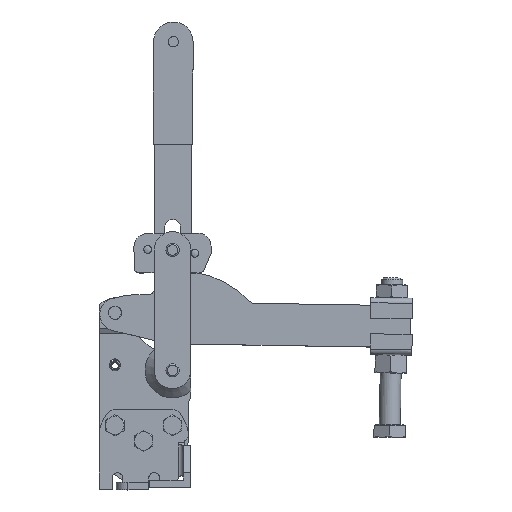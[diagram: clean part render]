
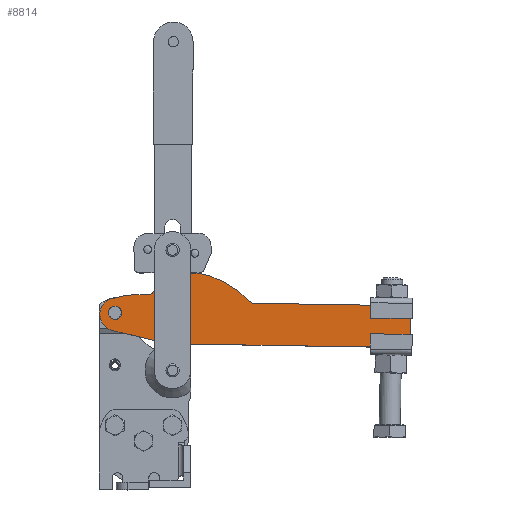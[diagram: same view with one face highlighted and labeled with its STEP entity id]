
A CAD part, top view. The second image highlights one B-rep face of the part: STEP entity #8814.
In plain terms, the highlighted planar face has unit normal (0, 0, 1).
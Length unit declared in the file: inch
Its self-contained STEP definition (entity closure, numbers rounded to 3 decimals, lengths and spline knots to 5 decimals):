
#8223=CARTESIAN_POINT('',(18.46002,11.28633,0.45362));
#8224=VERTEX_POINT('',#8223);
#8225=CARTESIAN_POINT('',(18.30304,11.28888,0.45362));
#8226=DIRECTION('',(0.0,0.0,-1.0));
#8227=DIRECTION('',(-1.,0.016,0.0));
#8228=AXIS2_PLACEMENT_3D('',#8225,#8226,#8227);
#8229=CIRCLE('',#8228,0.157);
#8230=EDGE_CURVE('',#8224,#8224,#8229,.T.);
#8251=CARTESIAN_POINT('',(19.83484,11.26398,0.45362));
#8252=VERTEX_POINT('',#8251);
#8253=CARTESIAN_POINT('',(19.67786,11.26653,0.45362));
#8254=DIRECTION('',(0.0,0.0,-1.0));
#8255=DIRECTION('',(-1.,0.016,0.0));
#8256=AXIS2_PLACEMENT_3D('',#8253,#8254,#8255);
#8257=CIRCLE('',#8256,0.157);
#8258=EDGE_CURVE('',#8252,#8252,#8257,.T.);
#8279=CARTESIAN_POINT('',(19.35599,12.17131,0.45362));
#8280=VERTEX_POINT('',#8279);
#8281=CARTESIAN_POINT('',(19.45327,12.25399,0.45362));
#8282=VERTEX_POINT('',#8281);
#8283=CARTESIAN_POINT('',(19.47423,12.13075,0.45362));
#8284=DIRECTION('',(0.0,0.0,-1.0));
#8285=DIRECTION('',(-0.648,0.762,0.0));
#8286=AXIS2_PLACEMENT_3D('',#8283,#8284,#8285);
#8287=CIRCLE('',#8286,0.125);
#8288=EDGE_CURVE('',#8280,#8282,#8287,.T.);
#8332=CARTESIAN_POINT('',(25.30669,11.45707,0.45362));
#8333=VERTEX_POINT('',#8332);
#8340=CARTESIAN_POINT('',(25.36767,11.39407,0.45362));
#8341=VERTEX_POINT('',#8340);
#8342=CARTESIAN_POINT('',(25.30568,11.39508,0.45362));
#8343=DIRECTION('',(0.0,0.0,-1.0));
#8344=DIRECTION('',(0.719,0.696,0.0));
#8345=AXIS2_PLACEMENT_3D('',#8342,#8343,#8344);
#8346=CIRCLE('',#8345,0.062);
#8347=EDGE_CURVE('',#8333,#8341,#8346,.T.);
#8374=CARTESIAN_POINT('',(25.35343,10.51819,0.45362));
#8375=VERTEX_POINT('',#8374);
#8382=CARTESIAN_POINT('',(25.29044,10.45721,0.45362));
#8383=VERTEX_POINT('',#8382);
#8384=CARTESIAN_POINT('',(25.29144,10.5192,0.45362));
#8385=DIRECTION('',(0.0,0.0,-1.0));
#8386=DIRECTION('',(0.696,-0.719,0.0));
#8387=AXIS2_PLACEMENT_3D('',#8384,#8385,#8386);
#8388=CIRCLE('',#8387,0.062);
#8389=EDGE_CURVE('',#8375,#8383,#8388,.T.);
#8413=CARTESIAN_POINT('',(25.36767,11.39407,0.45362));
#8414=DIRECTION('',(-0.016,-1.,0.0));
#8415=VECTOR('',#8414,0.876);
#8416=LINE('',#8413,#8415);
#8417=EDGE_CURVE('',#8341,#8375,#8416,.T.);
#8537=CARTESIAN_POINT('',(21.64225,11.51664,0.45362));
#8538=VERTEX_POINT('',#8537);
#8545=CARTESIAN_POINT('',(25.30669,11.45707,0.45362));
#8546=DIRECTION('',(-1.,0.016,0.0));
#8547=VECTOR('',#8546,3.66492);
#8548=LINE('',#8545,#8547);
#8549=EDGE_CURVE('',#8333,#8538,#8548,.T.);
#8560=CARTESIAN_POINT('',(21.51604,11.5682,0.45362));
#8561=VERTEX_POINT('',#8560);
#8562=CARTESIAN_POINT('',(19.84089,9.97471,0.45362));
#8563=DIRECTION('',(0.0,0.0,1.0));
#8564=DIRECTION('',(-0.725,-0.689,0.0));
#8565=AXIS2_PLACEMENT_3D('',#8562,#8563,#8564);
#8566=CIRCLE('',#8565,2.312);
#8567=EDGE_CURVE('',#8561,#8282,#8566,.T.);
#8585=CARTESIAN_POINT('',(18.20969,11.62141,0.45362));
#8586=VERTEX_POINT('',#8585);
#8593=CARTESIAN_POINT('',(19.10234,11.72119,0.45362));
#8594=VERTEX_POINT('',#8593);
#8595=CARTESIAN_POINT('',(18.91509,9.35359,0.45362));
#8596=DIRECTION('',(0.0,0.0,1.0));
#8597=DIRECTION('',(-0.079,-0.997,0.0));
#8598=AXIS2_PLACEMENT_3D('',#8595,#8596,#8597);
#8599=CIRCLE('',#8598,2.375);
#8600=EDGE_CURVE('',#8594,#8586,#8599,.T.);
#8618=CARTESIAN_POINT('',(19.23044,11.80525,0.45362));
#8619=VERTEX_POINT('',#8618);
#8620=CARTESIAN_POINT('',(19.1122,11.8458,0.45362));
#8621=DIRECTION('',(0.0,0.0,-1.0));
#8622=DIRECTION('',(-0.079,-0.997,0.0));
#8623=AXIS2_PLACEMENT_3D('',#8620,#8621,#8622);
#8624=CIRCLE('',#8623,0.125);
#8625=EDGE_CURVE('',#8619,#8594,#8624,.T.);
#8644=CARTESIAN_POINT('',(19.35599,12.17131,0.45362));
#8645=DIRECTION('',(-0.324,-0.946,0.0));
#8646=VECTOR('',#8645,0.387);
#8647=LINE('',#8644,#8646);
#8648=EDGE_CURVE('',#8280,#8619,#8647,.T.);
#8660=CARTESIAN_POINT('',(21.64012,11.51043,0.45362));
#8661=VERTEX_POINT('',#8660);
#8662=CARTESIAN_POINT('',(21.65153,11.69708,0.45362));
#8663=DIRECTION('',(0.0,0.0,-1.0));
#8664=DIRECTION('',(-0.725,-0.689,0.0));
#8665=AXIS2_PLACEMENT_3D('',#8662,#8663,#8664);
#8666=CIRCLE('',#8665,0.187);
#8667=EDGE_CURVE('',#8661,#8561,#8666,.T.);
#8685=CARTESIAN_POINT('',(21.64225,11.51664,0.45362));
#8686=DIRECTION('',(-0.324,-0.946,0.0));
#8687=VECTOR('',#8686,0.00656);
#8688=LINE('',#8685,#8687);
#8689=EDGE_CURVE('',#8538,#8661,#8688,.T.);
#8701=CARTESIAN_POINT('',(19.56476,10.55028,0.45362));
#8702=VERTEX_POINT('',#8701);
#8709=CARTESIAN_POINT('',(18.25424,10.86324,0.45362));
#8710=VERTEX_POINT('',#8709);
#8711=CARTESIAN_POINT('',(18.25424,10.86324,0.45362));
#8712=DIRECTION('',(0.973,-0.232,0.0));
#8713=VECTOR('',#8712,1.34737);
#8714=LINE('',#8711,#8713);
#8715=EDGE_CURVE('',#8710,#8702,#8714,.T.);
#8733=CARTESIAN_POINT('',(17.9426,11.26473,0.45362));
#8734=VERTEX_POINT('',#8733);
#8735=CARTESIAN_POINT('',(18.34855,11.25813,0.45362));
#8736=DIRECTION('',(0.0,0.0,1.0));
#8737=DIRECTION('',(1.,-0.016,0.0));
#8738=AXIS2_PLACEMENT_3D('',#8735,#8736,#8737);
#8739=CIRCLE('',#8738,0.406);
#8740=EDGE_CURVE('',#8734,#8710,#8739,.T.);
#8758=CARTESIAN_POINT('',(18.32255,11.25856,0.45362));
#8759=DIRECTION('',(0.0,0.0,1.0));
#8760=DIRECTION('',(0.297,-0.955,0.0));
#8761=AXIS2_PLACEMENT_3D('',#8758,#8759,#8760);
#8762=CIRCLE('',#8761,0.38);
#8763=EDGE_CURVE('',#8586,#8734,#8762,.T.);
#8775=CARTESIAN_POINT('',(25.29044,10.45721,0.45362));
#8776=DIRECTION('',(-1.,0.016,0.0));
#8777=VECTOR('',#8776,5.72643);
#8778=LINE('',#8775,#8777);
#8779=EDGE_CURVE('',#8383,#8702,#8778,.T.);
#8786=CARTESIAN_POINT('',(21.61918,11.51701,0.45362));
#8787=DIRECTION('',(0.0,0.0,1.0));
#8788=DIRECTION('',(1.,-0.016,0.0));
#8789=AXIS2_PLACEMENT_3D('',#8786,#8787,#8788);
#8790=PLANE('',#8789);
#8791=ORIENTED_EDGE('',*,*,#8389,.F.);
#8792=ORIENTED_EDGE('',*,*,#8417,.F.);
#8793=ORIENTED_EDGE('',*,*,#8347,.F.);
#8794=ORIENTED_EDGE('',*,*,#8549,.T.);
#8795=ORIENTED_EDGE('',*,*,#8689,.T.);
#8796=ORIENTED_EDGE('',*,*,#8667,.T.);
#8797=ORIENTED_EDGE('',*,*,#8567,.T.);
#8798=ORIENTED_EDGE('',*,*,#8288,.F.);
#8799=ORIENTED_EDGE('',*,*,#8648,.T.);
#8800=ORIENTED_EDGE('',*,*,#8625,.T.);
#8801=ORIENTED_EDGE('',*,*,#8600,.T.);
#8802=ORIENTED_EDGE('',*,*,#8763,.T.);
#8803=ORIENTED_EDGE('',*,*,#8740,.T.);
#8804=ORIENTED_EDGE('',*,*,#8715,.T.);
#8805=ORIENTED_EDGE('',*,*,#8779,.F.);
#8806=EDGE_LOOP('',(#8791,#8792,#8793,#8794,#8795,#8796,#8797,#8798,#8799,#8800,#8801,#8802,#8803,#8804,#8805));
#8807=FACE_OUTER_BOUND('',#8806,.T.);
#8808=ORIENTED_EDGE('',*,*,#8258,.T.);
#8809=EDGE_LOOP('',(#8808));
#8810=FACE_BOUND('',#8809,.T.);
#8811=ORIENTED_EDGE('',*,*,#8230,.T.);
#8812=EDGE_LOOP('',(#8811));
#8813=FACE_BOUND('',#8812,.T.);
#8814=ADVANCED_FACE('',(#8807,#8810,#8813),#8790,.T.);
